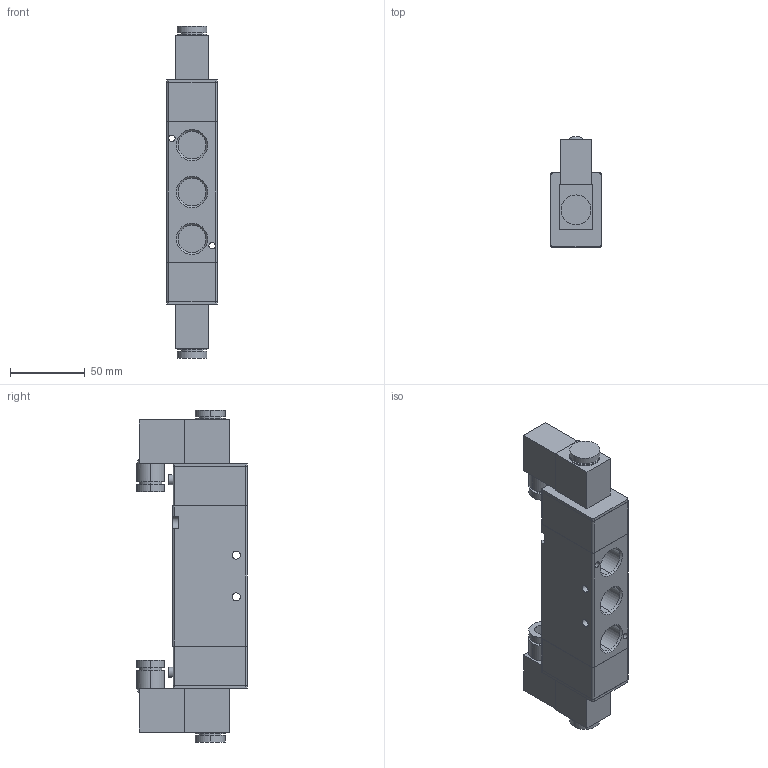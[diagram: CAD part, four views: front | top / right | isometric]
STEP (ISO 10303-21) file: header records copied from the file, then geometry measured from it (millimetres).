
FILE_DESCRIPTION (( 'STEP AP203' ), '1' );
FILE_NAME ('VB5-D04.STEP', '2020-04-15T17:02:57', ( '' ), ( '' ), 'SwSTEP 2.0', 'SolidWorks 2019', '' );
FILE_SCHEMA (( 'CONFIG_CONTROL_DESIGN' ));
Length unit declared in the file: millimetre
Products named in the file (1): VB5-D04
Bounding box: 34 x 74.3 x 222.8 mm (x, y, z)
Volume: 316136.3 mm3; surface area: 53092.7 mm2
Topology: 1 solids, 1 shells, 159 faces, 376 edges, 246 vertices
Faces by surface type: cylinder 74, plane 73, cone 12
Entity records: 4824 total; most frequent: CARTESIAN_POINT 897, DIRECTION 856, ORIENTED_EDGE 752, EDGE_CURVE 376, AXIS2_PLACEMENT_3D 322, VERTEX_POINT 246, VECTOR 212, LINE 212
